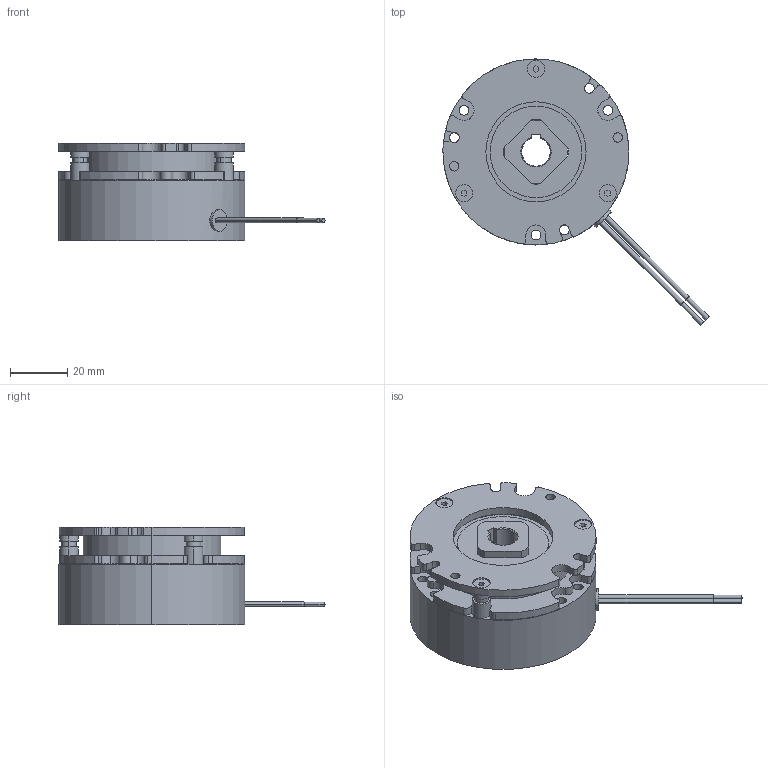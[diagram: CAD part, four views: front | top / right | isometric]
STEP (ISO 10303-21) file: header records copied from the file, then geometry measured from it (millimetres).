
FILE_DESCRIPTION (( 'STEP AP214' ), '1' );
FILE_NAME ('BXW-04-10H.STEP', '2017-06-27T07:57:16', ( 'MIKI' ), ( '' ), 'SwSTEP 2.0', 'SolidWorks 2012', '' );
FILE_SCHEMA (( 'AUTOMOTIVE_DESIGN' ));
Length unit declared in the file: millimetre
Products named in the file (1): BXW-04-10H
Bounding box: 92.98 x 92.98 x 33.9 mm (x, y, z)
Volume: 86306.6 mm3; surface area: 28255.8 mm2
Topology: 1 solids, 1 shells, 292 faces, 761 edges, 496 vertices
Faces by surface type: cylinder 160, plane 114, cone 18
Entity records: 12569 total; most frequent: CARTESIAN_POINT 1814, DIRECTION 1657, ORIENTED_EDGE 1514, EDGE_CURVE 757, AXIS2_PLACEMENT_3D 623, VERTEX_POINT 496, LINE 411, VECTOR 411
